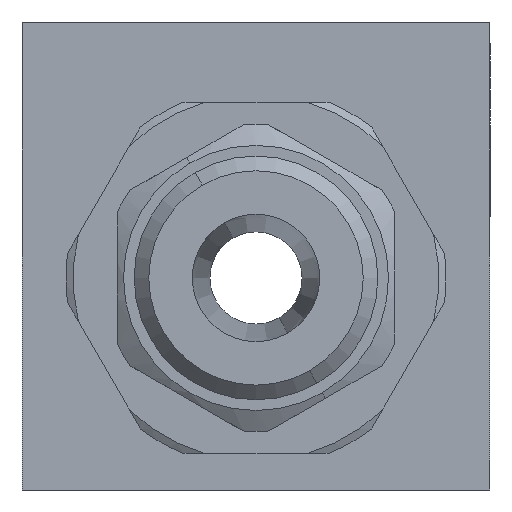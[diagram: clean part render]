
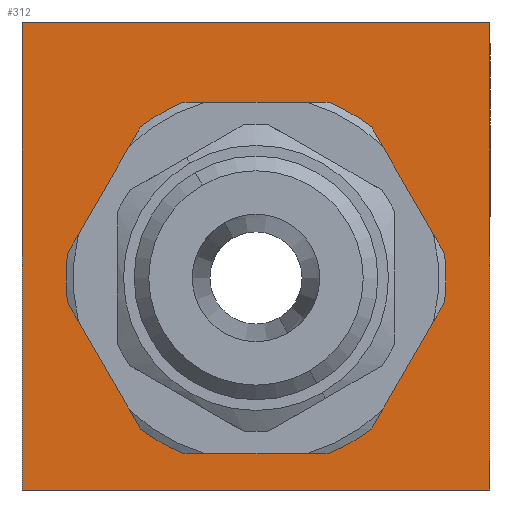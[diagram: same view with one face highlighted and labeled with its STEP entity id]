
A CAD part, front view. The second image highlights one B-rep face of the part: STEP entity #312.
In plain terms, the highlighted planar face has unit normal (0, -1, 0).
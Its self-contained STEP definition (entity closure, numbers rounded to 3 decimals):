
#307 = EDGE_CURVE ( 'NONE', #309, #315, #1762, .T. ) ;
#309 = VERTEX_POINT ( 'NONE', #1808 ) ;
#310 = EDGE_LOOP ( 'NONE', ( #311, #314, #364, #362 ) ) ;
#311 = ORIENTED_EDGE ( 'NONE', *, *, #307, .T. ) ;
#312 = ADVANCED_FACE ( 'NONE', ( #1807, #1806 ), #1805, .F. ) ;
#314 = ORIENTED_EDGE ( 'NONE', *, *, #369, .F. ) ;
#315 = VERTEX_POINT ( 'NONE', #1799 ) ;
#331 = ORIENTED_EDGE ( 'NONE', *, *, #1088, .F. ) ;
#361 = EDGE_CURVE ( 'NONE', #1089, #1044, #1904, .T. ) ;
#362 = ORIENTED_EDGE ( 'NONE', *, *, #366, .T. ) ;
#363 = VERTEX_POINT ( 'NONE', #1922 ) ;
#364 = ORIENTED_EDGE ( 'NONE', *, *, #367, .F. ) ;
#365 = EDGE_LOOP ( 'NONE', ( #370, #331 ) ) ;
#366 = EDGE_CURVE ( 'NONE', #368, #309, #1967, .T. ) ;
#367 = EDGE_CURVE ( 'NONE', #368, #363, #1963, .T. ) ;
#368 = VERTEX_POINT ( 'NONE', #1959 ) ;
#369 = EDGE_CURVE ( 'NONE', #363, #315, #1958, .T. ) ;
#370 = ORIENTED_EDGE ( 'NONE', *, *, #361, .F. ) ;
#1044 = VERTEX_POINT ( 'NONE', #3505 ) ;
#1088 = EDGE_CURVE ( 'NONE', #1044, #1089, #3610, .T. ) ;
#1089 = VERTEX_POINT ( 'NONE', #3605 ) ;
#1754 = DIRECTION ( 'NONE',  ( 1., 0., 0. ) ) ;
#1755 = VECTOR ( 'NONE', #1754, 1000. ) ;
#1756 = CARTESIAN_POINT ( 'NONE',  ( 16., -16., 0. ) ) ;
#1762 = LINE ( 'NONE', #1756, #1755 ) ;
#1799 = CARTESIAN_POINT ( 'NONE',  ( 16., -16., 0. ) ) ;
#1801 = DIRECTION ( 'NONE',  ( 0., 0., 1. ) ) ;
#1802 = DIRECTION ( 'NONE',  ( 0., 1., 0. ) ) ;
#1803 = CARTESIAN_POINT ( 'NONE',  ( 16., -16., 32. ) ) ;
#1804 = AXIS2_PLACEMENT_3D ( 'NONE', #1803, #1802, #1801 ) ;
#1805 = PLANE ( 'NONE',  #1804 ) ;
#1806 = FACE_BOUND ( 'NONE', #365, .T. ) ;
#1807 = FACE_OUTER_BOUND ( 'NONE', #310, .T. ) ;
#1808 = CARTESIAN_POINT ( 'NONE',  ( -16., -16., 0. ) ) ;
#1904 = CIRCLE ( 'NONE', #1926, 9. ) ;
#1922 = CARTESIAN_POINT ( 'NONE',  ( 16., -16., 32. ) ) ;
#1923 = DIRECTION ( 'NONE',  ( 0., 0., 1. ) ) ;
#1924 = DIRECTION ( 'NONE',  ( 0., -1., 0. ) ) ;
#1925 = CARTESIAN_POINT ( 'NONE',  ( 0., -16., 14.5 ) ) ;
#1926 = AXIS2_PLACEMENT_3D ( 'NONE', #1925, #1924, #1923 ) ;
#1955 = DIRECTION ( 'NONE',  ( 0., 0., -1. ) ) ;
#1956 = VECTOR ( 'NONE', #1955, 1000. ) ;
#1957 = CARTESIAN_POINT ( 'NONE',  ( 16., -16., 32. ) ) ;
#1958 = LINE ( 'NONE', #1957, #1956 ) ;
#1959 = CARTESIAN_POINT ( 'NONE',  ( -16., -16., 32. ) ) ;
#1960 = DIRECTION ( 'NONE',  ( 1., 0., 0. ) ) ;
#1961 = VECTOR ( 'NONE', #1960, 1000. ) ;
#1962 = CARTESIAN_POINT ( 'NONE',  ( 16., -16., 32. ) ) ;
#1963 = LINE ( 'NONE', #1962, #1961 ) ;
#1964 = DIRECTION ( 'NONE',  ( 0., 0., -1. ) ) ;
#1965 = VECTOR ( 'NONE', #1964, 1000. ) ;
#1966 = CARTESIAN_POINT ( 'NONE',  ( -16., -16., 32. ) ) ;
#1967 = LINE ( 'NONE', #1966, #1965 ) ;
#3505 = CARTESIAN_POINT ( 'NONE',  ( 4.5, -16., 6.706 ) ) ;
#3605 = CARTESIAN_POINT ( 'NONE',  ( -4.5, -16., 22.294 ) ) ;
#3606 = DIRECTION ( 'NONE',  ( 0., 0., 1. ) ) ;
#3607 = DIRECTION ( 'NONE',  ( 0., -1., 0. ) ) ;
#3608 = CARTESIAN_POINT ( 'NONE',  ( 0., -16., 14.5 ) ) ;
#3609 = AXIS2_PLACEMENT_3D ( 'NONE', #3608, #3607, #3606 ) ;
#3610 = CIRCLE ( 'NONE', #3609, 9. ) ;
